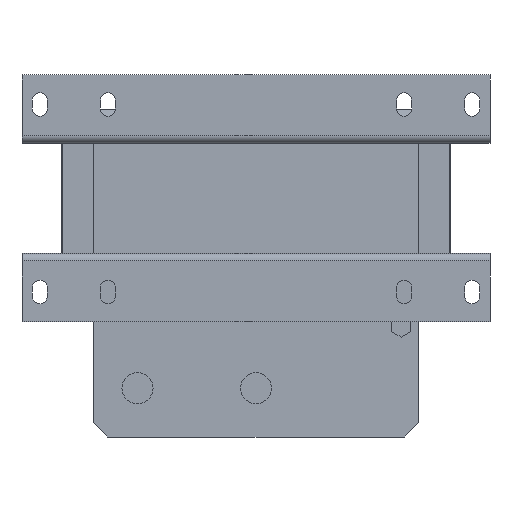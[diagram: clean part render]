
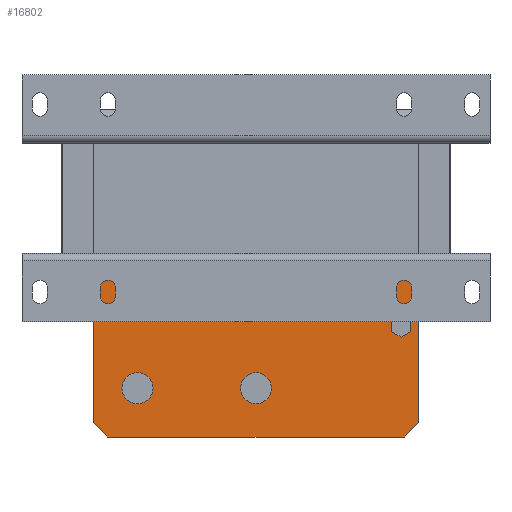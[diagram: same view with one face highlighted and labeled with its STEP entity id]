
A CAD part, front view. The second image highlights one B-rep face of the part: STEP entity #16802.
In plain terms, the highlighted planar face has unit normal (0, -1, 0).
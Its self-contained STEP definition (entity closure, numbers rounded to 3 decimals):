
#218 = VERTEX_POINT ( 'NONE', #1214 ) ;
#342 = CARTESIAN_POINT ( 'NONE',  ( -80., 43., -128.25 ) ) ;
#817 = DIRECTION ( 'NONE',  ( -1., 0., 0. ) ) ;
#854 = PLANE ( 'NONE',  #41951 ) ;
#954 = CARTESIAN_POINT ( 'NONE',  ( 98., 43., -93.756 ) ) ;
#1214 = CARTESIAN_POINT ( 'NONE',  ( 104.5, 43., -82.497 ) ) ;
#1451 = CARTESIAN_POINT ( 'NONE',  ( 0., 43., -117.75 ) ) ;
#1533 = VECTOR ( 'NONE', #11814, 1000. ) ;
#1710 = VECTOR ( 'NONE', #45206, 1000. ) ;
#1766 = EDGE_CURVE ( 'NONE', #5250, #21806, #32312, .T. ) ;
#1777 = EDGE_CURVE ( 'NONE', #39981, #30756, #40931, .T. ) ;
#2064 = VERTEX_POINT ( 'NONE', #29268 ) ;
#3062 = DIRECTION ( 'NONE',  ( 0., 0., -1. ) ) ;
#3106 = CARTESIAN_POINT ( 'NONE',  ( -80., 43., -138.75 ) ) ;
#3378 = CARTESIAN_POINT ( 'NONE',  ( 100., 43., -161.25 ) ) ;
#3559 = ORIENTED_EDGE ( 'NONE', *, *, #21136, .T. ) ;
#4000 = VERTEX_POINT ( 'NONE', #4165 ) ;
#4150 = VERTEX_POINT ( 'NONE', #5124 ) ;
#4165 = CARTESIAN_POINT ( 'NONE',  ( -110., 43., -47.25 ) ) ;
#4289 = ORIENTED_EDGE ( 'NONE', *, *, #48291, .F. ) ;
#4441 = DIRECTION ( 'NONE',  ( 0., 0., 1. ) ) ;
#4885 = ORIENTED_EDGE ( 'NONE', *, *, #11615, .F. ) ;
#5124 = CARTESIAN_POINT ( 'NONE',  ( 110., 43., -47.25 ) ) ;
#5250 = VERTEX_POINT ( 'NONE', #18889 ) ;
#6172 = CARTESIAN_POINT ( 'NONE',  ( 0., 43., -138.75 ) ) ;
#6525 = DIRECTION ( 'NONE',  ( 0., 0., 1. ) ) ;
#6695 = VERTEX_POINT ( 'NONE', #1451 ) ;
#7052 = DIRECTION ( 'NONE',  ( 0.707, 0., 0.707 ) ) ;
#7382 = DIRECTION ( 'NONE',  ( 0., -1., 0. ) ) ;
#7443 = DIRECTION ( 'NONE',  ( -1., 0., 0. ) ) ;
#7512 = DIRECTION ( 'NONE',  ( 0., 0., -1. ) ) ;
#8157 = CARTESIAN_POINT ( 'NONE',  ( 110., 43., -47.25 ) ) ;
#8161 = CARTESIAN_POINT ( 'NONE',  ( -100., 43., -161.25 ) ) ;
#9648 = CIRCLE ( 'NONE', #27706, 10.5 ) ;
#9994 = ORIENTED_EDGE ( 'NONE', *, *, #47507, .F. ) ;
#10044 = VERTEX_POINT ( 'NONE', #19934 ) ;
#10140 = AXIS2_PLACEMENT_3D ( 'NONE', #14754, #7382, #4441 ) ;
#11269 = CARTESIAN_POINT ( 'NONE',  ( -110., 43., -151.25 ) ) ;
#11288 = LINE ( 'NONE', #36929, #47032 ) ;
#11615 = EDGE_CURVE ( 'NONE', #218, #43000, #47807, .T. ) ;
#11814 = DIRECTION ( 'NONE',  ( -0.866, 0., -0.5 ) ) ;
#11842 = AXIS2_PLACEMENT_3D ( 'NONE', #26101, #22913, #37244 ) ;
#12129 = EDGE_CURVE ( 'NONE', #10044, #20548, #31356, .T. ) ;
#12890 = CARTESIAN_POINT ( 'NONE',  ( 98., 43., -78.744 ) ) ;
#12919 = VECTOR ( 'NONE', #32371, 1000. ) ;
#12977 = ORIENTED_EDGE ( 'NONE', *, *, #48365, .F. ) ;
#13049 = LINE ( 'NONE', #46309, #26149 ) ;
#13297 = DIRECTION ( 'NONE',  ( 0., 0., 1. ) ) ;
#14154 = ORIENTED_EDGE ( 'NONE', *, *, #20053, .F. ) ;
#14390 = ORIENTED_EDGE ( 'NONE', *, *, #21862, .F. ) ;
#14754 = CARTESIAN_POINT ( 'NONE',  ( -80., 43., -128.25 ) ) ;
#14913 = EDGE_CURVE ( 'NONE', #39981, #40039, #32639, .T. ) ;
#15208 = VECTOR ( 'NONE', #3062, 1000. ) ;
#15947 = CARTESIAN_POINT ( 'NONE',  ( 91.5, 43., -90.003 ) ) ;
#16802 = ADVANCED_FACE ( 'NONE', ( #18776, #25652, #35261, #38715 ), #854, .F. ) ;
#18776 = FACE_BOUND ( 'NONE', #20766, .T. ) ;
#18889 = CARTESIAN_POINT ( 'NONE',  ( 91.5, 43., -82.497 ) ) ;
#18922 = EDGE_CURVE ( 'NONE', #4000, #41518, #11288, .T. ) ;
#19934 = CARTESIAN_POINT ( 'NONE',  ( -80., 43., -117.75 ) ) ;
#20053 = EDGE_CURVE ( 'NONE', #21806, #29446, #34681, .T. ) ;
#20548 = VERTEX_POINT ( 'NONE', #3106 ) ;
#20766 = EDGE_LOOP ( 'NONE', ( #48319, #4289 ) ) ;
#21136 = EDGE_CURVE ( 'NONE', #4150, #4000, #34007, .T. ) ;
#21240 = EDGE_LOOP ( 'NONE', ( #14390, #12977 ) ) ;
#21441 = CARTESIAN_POINT ( 'NONE',  ( 104.5, 43., -82.497 ) ) ;
#21806 = VERTEX_POINT ( 'NONE', #40252 ) ;
#21862 = EDGE_CURVE ( 'NONE', #6695, #24259, #9648, .T. ) ;
#22333 = EDGE_CURVE ( 'NONE', #2064, #218, #13049, .T. ) ;
#22429 = ORIENTED_EDGE ( 'NONE', *, *, #31620, .T. ) ;
#22913 = DIRECTION ( 'NONE',  ( 0., -1., 0. ) ) ;
#23275 = LINE ( 'NONE', #26484, #1710 ) ;
#23892 = ORIENTED_EDGE ( 'NONE', *, *, #18922, .T. ) ;
#24241 = LINE ( 'NONE', #39530, #12919 ) ;
#24259 = VERTEX_POINT ( 'NONE', #6172 ) ;
#24842 = ORIENTED_EDGE ( 'NONE', *, *, #40568, .F. ) ;
#25105 = CARTESIAN_POINT ( 'NONE',  ( 100., 43., -161.25 ) ) ;
#25387 = CARTESIAN_POINT ( 'NONE',  ( 91.5, 43., -82.497 ) ) ;
#25399 = EDGE_LOOP ( 'NONE', ( #4885, #32777, #9994, #14154, #45760, #36923 ) ) ;
#25546 = EDGE_LOOP ( 'NONE', ( #35720, #24842, #3559, #23892, #22429, #34735 ) ) ;
#25652 = FACE_BOUND ( 'NONE', #21240, .T. ) ;
#26101 = CARTESIAN_POINT ( 'NONE',  ( 0., 43., -128.25 ) ) ;
#26149 = VECTOR ( 'NONE', #13297, 1000. ) ;
#26484 = CARTESIAN_POINT ( 'NONE',  ( 98., 43., -93.756 ) ) ;
#27016 = VECTOR ( 'NONE', #7443, 1000. ) ;
#27706 = AXIS2_PLACEMENT_3D ( 'NONE', #33082, #44414, #6525 ) ;
#29268 = CARTESIAN_POINT ( 'NONE',  ( 104.5, 43., -90.003 ) ) ;
#29446 = VERTEX_POINT ( 'NONE', #954 ) ;
#29893 = LINE ( 'NONE', #38048, #48610 ) ;
#30750 = CARTESIAN_POINT ( 'NONE',  ( 98., 43., -78.744 ) ) ;
#30756 = VERTEX_POINT ( 'NONE', #8161 ) ;
#30961 = DIRECTION ( 'NONE',  ( 0.866, 0., -0.5 ) ) ;
#31325 = VECTOR ( 'NONE', #30961, 1000. ) ;
#31356 = CIRCLE ( 'NONE', #10140, 10.5 ) ;
#31620 = EDGE_CURVE ( 'NONE', #41518, #30756, #24241, .T. ) ;
#31734 = VECTOR ( 'NONE', #7052, 1000. ) ;
#32312 = LINE ( 'NONE', #25387, #15208 ) ;
#32371 = DIRECTION ( 'NONE',  ( 0.707, 0., -0.707 ) ) ;
#32639 = LINE ( 'NONE', #3378, #31734 ) ;
#32777 = ORIENTED_EDGE ( 'NONE', *, *, #22333, .F. ) ;
#33082 = CARTESIAN_POINT ( 'NONE',  ( 0., 43., -128.25 ) ) ;
#33861 = AXIS2_PLACEMENT_3D ( 'NONE', #342, #41660, #37001 ) ;
#33943 = EDGE_CURVE ( 'NONE', #43000, #5250, #34229, .T. ) ;
#34007 = LINE ( 'NONE', #8157, #34433 ) ;
#34229 = LINE ( 'NONE', #30750, #1533 ) ;
#34433 = VECTOR ( 'NONE', #817, 1000. ) ;
#34535 = DIRECTION ( 'NONE',  ( 0., 1., 0. ) ) ;
#34681 = LINE ( 'NONE', #15947, #31325 ) ;
#34735 = ORIENTED_EDGE ( 'NONE', *, *, #1777, .F. ) ;
#35261 = FACE_OUTER_BOUND ( 'NONE', #25546, .T. ) ;
#35440 = CIRCLE ( 'NONE', #33861, 10.5 ) ;
#35720 = ORIENTED_EDGE ( 'NONE', *, *, #14913, .T. ) ;
#36923 = ORIENTED_EDGE ( 'NONE', *, *, #33943, .F. ) ;
#36929 = CARTESIAN_POINT ( 'NONE',  ( -110., 43., -41.25 ) ) ;
#37001 = DIRECTION ( 'NONE',  ( 0., 0., 1. ) ) ;
#37162 = DIRECTION ( 'NONE',  ( 0., 0., -1. ) ) ;
#37244 = DIRECTION ( 'NONE',  ( 0., 0., 1. ) ) ;
#38048 = CARTESIAN_POINT ( 'NONE',  ( 110., 43., -41.25 ) ) ;
#38448 = VECTOR ( 'NONE', #45007, 1000. ) ;
#38715 = FACE_BOUND ( 'NONE', #25399, .T. ) ;
#39530 = CARTESIAN_POINT ( 'NONE',  ( -110., 43., -151.25 ) ) ;
#39906 = CARTESIAN_POINT ( 'NONE',  ( 110., 43., -151.25 ) ) ;
#39981 = VERTEX_POINT ( 'NONE', #25105 ) ;
#40039 = VERTEX_POINT ( 'NONE', #39906 ) ;
#40252 = CARTESIAN_POINT ( 'NONE',  ( 91.5, 43., -90.003 ) ) ;
#40568 = EDGE_CURVE ( 'NONE', #4150, #40039, #29893, .T. ) ;
#40931 = LINE ( 'NONE', #48297, #27016 ) ;
#41518 = VERTEX_POINT ( 'NONE', #11269 ) ;
#41660 = DIRECTION ( 'NONE',  ( 0., -1., 0. ) ) ;
#41925 = DIRECTION ( 'NONE',  ( 0., 0., 1. ) ) ;
#41951 = AXIS2_PLACEMENT_3D ( 'NONE', #42171, #34535, #41925 ) ;
#42171 = CARTESIAN_POINT ( 'NONE',  ( 110., 43., -41.25 ) ) ;
#43000 = VERTEX_POINT ( 'NONE', #12890 ) ;
#44414 = DIRECTION ( 'NONE',  ( 0., -1., 0. ) ) ;
#45007 = DIRECTION ( 'NONE',  ( -0.866, 0., 0.5 ) ) ;
#45206 = DIRECTION ( 'NONE',  ( 0.866, 0., 0.5 ) ) ;
#45760 = ORIENTED_EDGE ( 'NONE', *, *, #1766, .F. ) ;
#46309 = CARTESIAN_POINT ( 'NONE',  ( 104.5, 43., -90.003 ) ) ;
#47032 = VECTOR ( 'NONE', #37162, 1000. ) ;
#47507 = EDGE_CURVE ( 'NONE', #29446, #2064, #23275, .T. ) ;
#47807 = LINE ( 'NONE', #21441, #38448 ) ;
#48010 = CIRCLE ( 'NONE', #11842, 10.5 ) ;
#48291 = EDGE_CURVE ( 'NONE', #20548, #10044, #35440, .T. ) ;
#48297 = CARTESIAN_POINT ( 'NONE',  ( 110., 43., -161.25 ) ) ;
#48319 = ORIENTED_EDGE ( 'NONE', *, *, #12129, .F. ) ;
#48365 = EDGE_CURVE ( 'NONE', #24259, #6695, #48010, .T. ) ;
#48610 = VECTOR ( 'NONE', #7512, 1000. ) ;
